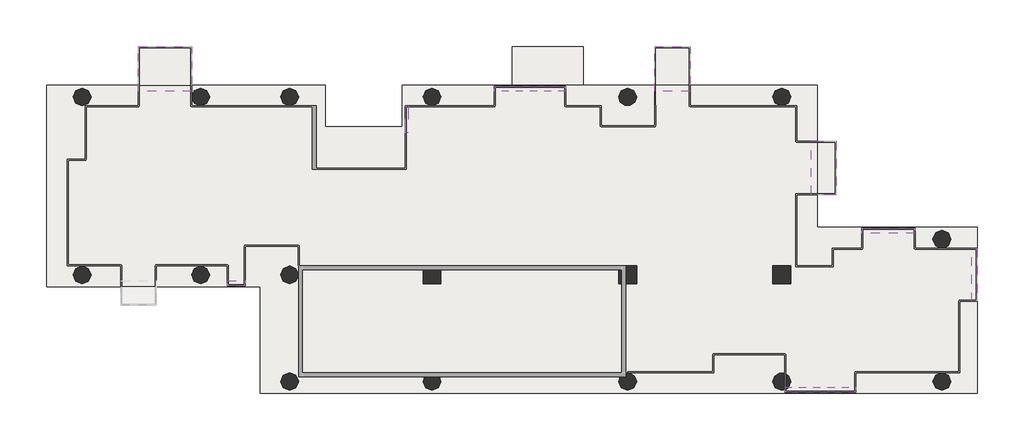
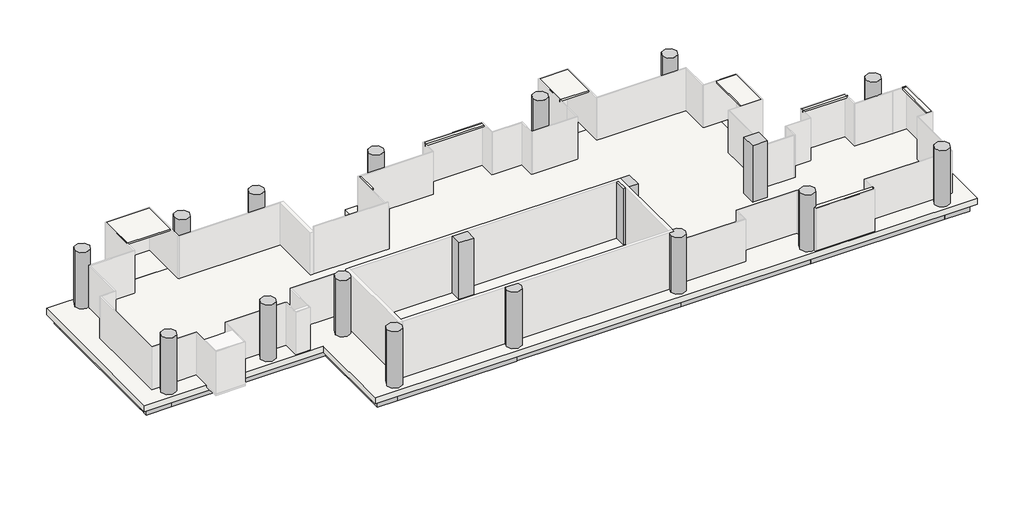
# One storey, part 2 of 2: 33 slabs, 25 beams, 18 columns.
"""IFC4 building model written with IfcOpenShell, lengths in millimetres."""

from ifc_helpers import new_model, si_unit, point, frame, frame_2d, origin, place, context, project, spatial, polyline, circle_curve, trimmed, segment, composite_curve, outline, extrude, transform, mapped, element, save
from ifc_brep_helpers import plane_surface, cylinder_surface, advanced_brep
from components import ajn_arc_ossature_rec_ba_700x600_5242ffbb, ajn_arc_ossature_rec_ba_700x600_213c05e2, ajn_arc_ossature_rec_ba_700x600_4d623bda, ajn_arc_ossature_rec_ba_700x600_c2a8f1af, ajn_arc_ossature_rec_ba_700x600_b2f97811, ajn_arc_ossature_rec_ba_700x600_e688680c, ajn_arc_ossature_rec_ba_700x600_8adee879, ajn_arc_ossature_rec_ba_700x600_6677e51c, ajn_arc_ossature_rec_ba_700x600_60e35d56, ajn_arc_ossature_rec_ba_700x600_9ae0f913, ajn_arc_ossature_rec_ba_700x600_5c14351b, ajn_arc_ossature_rec_ba_700x600_e883967f, ajn_arc_ossature_rec_ba_700x600_0984b03c, ajn_arc_ossature_rec_ba_700x600_78f846f2, ajn_arc_ossature_rec_ba_700x600_e869caa8, ajn_arc_ossature_rec_ba_700x600_0388eb48, ajn_arc_ossature_rec_ba_700x600_e143517c, ajn_arc_ossature_rec_ba_700x600_758f1bfa, ajn_arc_ossature_rec_ba_700x600_64ba80e1, ajn_arc_poteau_circulaire_535159a1

model = new_model("IFC4")

# Units and contexts
model_context = context("Model", 3, world=origin())
ifc_project = project(units=[si_unit("LENGTHUNIT", "METRE", prefix="MILLI")], contexts=[model_context])

# Site, building, storey
site = spatial("IfcSite", under=ifc_project)
building = spatial("IfcBuilding", under=site)
storey = spatial("IfcBuildingStorey", under=building, Name="TW-L 20", Elevation=71199.9999686)

# Beams
placement = place(None, origin())
ajn_arc_ossature_rec_ba_700x600_shape = ajn_arc_ossature_rec_ba_700x600_5242ffbb(model_context)
element("IfcBeam", 1, ObjectType="AJN-ARC-OSSATURE REC-BA : 700x600", at=placement, inside=storey, context=model_context, shape_type="MappedRepresentation", body=[
    mapped(ajn_arc_ossature_rec_ba_700x600_shape, transform((119350.0, 39300.0, 70649.9999686), x_axis=(-1.0, 0.0, 0.0), y_axis=(0.0, -1.0, 0.0), z_axis=(0.0, 0.0, 1.0))),
])
ajn_arc_ossature_rec_ba_700x600_2_shape = ajn_arc_ossature_rec_ba_700x600_213c05e2(model_context)
element("IfcBeam", 2, ObjectType="AJN-ARC-OSSATURE REC-BA : 700x600", at=placement, inside=storey, context=model_context, shape_type="MappedRepresentation", body=[
    mapped(ajn_arc_ossature_rec_ba_700x600_2_shape, transform((100900.0, 34800.0, 70649.9999686), x_axis=(0.0, -1.0, 0.0), y_axis=(1.0, 0.0, 0.0), z_axis=(0.0, 0.0, 1.0))),
])
ajn_arc_ossature_rec_ba_700x600_3_shape = ajn_arc_ossature_rec_ba_700x600_4d623bda(model_context)
element("IfcBeam", 3, ObjectType="AJN-ARC-OSSATURE REC-BA : 700x600", at=placement, inside=storey, context=model_context, shape_type="MappedRepresentation", body=[
    mapped(ajn_arc_ossature_rec_ba_700x600_3_shape, transform((112150.0, 24900.0, 70649.9999686), x_axis=(1.0, 0.0, 0.0), y_axis=(0.0, 1.0, 0.0), z_axis=(0.0, 0.0, 1.0))),
])
ajn_arc_ossature_rec_ba_700x600_4_shape = ajn_arc_ossature_rec_ba_700x600_c2a8f1af(model_context)
element("IfcBeam", 4, ObjectType="AJN-ARC-OSSATURE REC-BA : 700x600", at=placement, inside=storey, context=model_context, shape_type="MappedRepresentation", body=[
    mapped(ajn_arc_ossature_rec_ba_700x600_4_shape, transform((116200.0, 24900.0, 70649.9999686), x_axis=(1.0, 0.0, 0.0), y_axis=(0.0, 1.0, 0.0), z_axis=(0.0, 0.0, 1.0))),
])
ajn_arc_ossature_rec_ba_700x600_5_shape = ajn_arc_ossature_rec_ba_700x600_b2f97811(model_context)
element("IfcBeam", 5, ObjectType="AJN-ARC-OSSATURE REC-BA : 700x600", at=placement, inside=storey, context=model_context, shape_type="MappedRepresentation", body=[
    mapped(ajn_arc_ossature_rec_ba_700x600_5_shape, transform((106900.0, 30300.0, 70649.9999686), x_axis=(1.0, 0.0, 0.0), y_axis=(0.0, 1.0, 0.0), z_axis=(0.0, 0.0, 1.0))),
])
ajn_arc_ossature_rec_ba_700x600_6_shape = ajn_arc_ossature_rec_ba_700x600_e688680c(model_context)
element("IfcBeam", 6, ObjectType="AJN-ARC-OSSATURE REC-BA : 700x600", at=placement, inside=storey, context=model_context, shape_type="MappedRepresentation", body=[
    mapped(ajn_arc_ossature_rec_ba_700x600_6_shape, transform((111700.0, 27600.0, 70649.9999686), x_axis=(0.0, -1.0, 0.0), y_axis=(1.0, 0.0, 0.0), z_axis=(0.0, 0.0, 1.0))),
])
ajn_arc_ossature_rec_ba_700x600_7_shape = ajn_arc_ossature_rec_ba_700x600_8adee879(model_context)
element("IfcBeam", 7, ObjectType="AJN-ARC-OSSATURE REC-BA : 700x600", at=placement, inside=storey, context=model_context, shape_type="MappedRepresentation", body=[
    mapped(ajn_arc_ossature_rec_ba_700x600_7_shape, transform((124750.0, 24900.0, 70649.9999686), x_axis=(1.0, 0.0, 0.0), y_axis=(0.0, 1.0, 0.0), z_axis=(0.0, 0.0, 1.0))),
])
element("IfcBeam", 8, ObjectType="AJN-ARC-OSSATURE REC-BA : 700x600", at=placement, inside=storey, context=model_context, shape_type="MappedRepresentation", body=[
    mapped(ajn_arc_ossature_rec_ba_700x600_7_shape, transform((124750.0, 39300.0, 70649.9999686), x_axis=(-1.0, 0.0, 0.0), y_axis=(0.0, -1.0, 0.0), z_axis=(0.0, 0.0, 1.0))),
])
ajn_arc_ossature_rec_ba_700x600_8_shape = ajn_arc_ossature_rec_ba_700x600_6677e51c(model_context)
element("IfcBeam", 9, ObjectType="AJN-ARC-OSSATURE REC-BA : 700x600", at=placement, inside=storey, context=model_context, shape_type="MappedRepresentation", body=[
    mapped(ajn_arc_ossature_rec_ba_700x600_8_shape, transform((133600.0, 24900.0, 70649.9999686), x_axis=(1.0, 0.0, 0.0), y_axis=(0.0, 1.0, 0.0), z_axis=(0.0, 0.0, 1.0))),
])
ajn_arc_ossature_rec_ba_700x600_9_shape = ajn_arc_ossature_rec_ba_700x600_60e35d56(model_context)
element("IfcBeam", 10, ObjectType="AJN-ARC-OSSATURE REC-BA : 700x600", at=placement, inside=storey, context=model_context, shape_type="MappedRepresentation", body=[
    mapped(ajn_arc_ossature_rec_ba_700x600_9_shape, transform((141550.0, 24900.0, 70649.9999686), x_axis=(1.0, 0.0, 0.0), y_axis=(0.0, 1.0, 0.0), z_axis=(0.0, 0.0, 1.0))),
])
ajn_arc_ossature_rec_ba_700x600_10_shape = ajn_arc_ossature_rec_ba_700x600_9ae0f913(model_context)
element("IfcBeam", 11, ObjectType="AJN-ARC-OSSATURE REC-BA : 700x600", at=placement, inside=storey, context=model_context, shape_type="MappedRepresentation", body=[
    mapped(ajn_arc_ossature_rec_ba_700x600_10_shape, transform((146200.0, 24900.0, 70649.9999686), x_axis=(1.0, 0.0, 0.0), y_axis=(0.0, 1.0, 0.0), z_axis=(0.0, 0.0, 1.0))),
])
element("IfcBeam", 12, ObjectType="AJN-ARC-OSSATURE REC-BA : 700x600", at=placement, inside=storey, context=model_context, shape_type="MappedRepresentation", body=[
    mapped(ajn_arc_ossature_rec_ba_700x600_10_shape, transform((101500.0, 39300.0, 70649.9999686), x_axis=(-1.0, 0.0, 0.0), y_axis=(0.0, -1.0, 0.0), z_axis=(0.0, 0.0, 1.0))),
])
ajn_arc_ossature_rec_ba_700x600_11_shape = ajn_arc_ossature_rec_ba_700x600_5c14351b(model_context)
element("IfcBeam", 13, ObjectType="AJN-ARC-OSSATURE REC-BA : 700x600", at=placement, inside=storey, context=model_context, shape_type="MappedRepresentation", body=[
    mapped(ajn_arc_ossature_rec_ba_700x600_11_shape, transform((146800.0, 28500.0, 70649.9999686), x_axis=(0.0, 1.0, 0.0), y_axis=(-1.0, 0.0, 0.0), z_axis=(0.0, 0.0, 1.0))),
])
element("IfcBeam", 14, ObjectType="AJN-ARC-OSSATURE REC-BA : 700x600", at=placement, inside=storey, context=model_context, shape_type="MappedRepresentation", body=[
    mapped(ajn_arc_ossature_rec_ba_700x600_11_shape, transform((138700.0, 35700.0, 70649.9999686), x_axis=(0.0, 1.0, 0.0), y_axis=(-1.0, 0.0, 0.0), z_axis=(0.0, 0.0, 1.0))),
])
ajn_arc_ossature_rec_ba_700x600_12_shape = ajn_arc_ossature_rec_ba_700x600_e883967f(model_context)
element("IfcBeam", 15, ObjectType="AJN-ARC-OSSATURE REC-BA : 700x600", at=placement, inside=storey, context=model_context, shape_type="MappedRepresentation", body=[
    mapped(ajn_arc_ossature_rec_ba_700x600_12_shape, transform((146200.0, 32100.0, 70649.9999686), x_axis=(-1.0, 0.0, 0.0), y_axis=(0.0, -1.0, 0.0), z_axis=(0.0, 0.0, 1.0))),
])
element("IfcBeam", 16, ObjectType="AJN-ARC-OSSATURE REC-BA : 700x600", at=placement, inside=storey, context=model_context, shape_type="MappedRepresentation", body=[
    mapped(ajn_arc_ossature_rec_ba_700x600_12_shape, transform((138100.0, 39300.0, 70649.9999686), x_axis=(-1.0, 0.0, 0.0), y_axis=(0.0, -1.0, 0.0), z_axis=(0.0, 0.0, 1.0))),
])
element("IfcBeam", 17, ObjectType="AJN-ARC-OSSATURE REC-BA : 700x600", at=placement, inside=storey, context=model_context, shape_type="MappedRepresentation", body=[
    mapped(ajn_arc_ossature_rec_ba_700x600_12_shape, transform((113200.0, 39300.0, 70649.9999686), x_axis=(-1.0, 0.0, 0.0), y_axis=(0.0, -1.0, 0.0), z_axis=(0.0, 0.0, 1.0))),
])
element("IfcBeam", 18, ObjectType="AJN-ARC-OSSATURE REC-BA : 700x600", at=placement, inside=storey, context=model_context, shape_type="MappedRepresentation", body=[
    mapped(ajn_arc_ossature_rec_ba_700x600_12_shape, transform((101500.0, 30300.0, 70649.9999686), x_axis=(1.0, 0.0, 0.0), y_axis=(0.0, 1.0, 0.0), z_axis=(0.0, 0.0, 1.0))),
])
ajn_arc_ossature_rec_ba_700x600_13_shape = ajn_arc_ossature_rec_ba_700x600_0984b03c(model_context)
element("IfcBeam", 19, ObjectType="AJN-ARC-OSSATURE REC-BA : 700x600", at=placement, inside=storey, context=model_context, shape_type="MappedRepresentation", body=[
    mapped(ajn_arc_ossature_rec_ba_700x600_13_shape, transform((142150.0, 32100.0, 70649.9999686), x_axis=(-1.0, 0.0, 0.0), y_axis=(0.0, -1.0, 0.0), z_axis=(0.0, 0.0, 1.0))),
])
ajn_arc_ossature_rec_ba_700x600_14_shape = ajn_arc_ossature_rec_ba_700x600_78f846f2(model_context)
element("IfcBeam", 20, ObjectType="AJN-ARC-OSSATURE REC-BA : 700x600", at=placement, inside=storey, context=model_context, shape_type="MappedRepresentation", body=[
    mapped(ajn_arc_ossature_rec_ba_700x600_14_shape, transform((133600.0, 39300.0, 70649.9999686), x_axis=(-1.0, 0.0, 0.0), y_axis=(0.0, -1.0, 0.0), z_axis=(0.0, 0.0, 1.0))),
])
ajn_arc_ossature_rec_ba_700x600_15_shape = ajn_arc_ossature_rec_ba_700x600_e869caa8(model_context)
element("IfcBeam", 21, ObjectType="AJN-ARC-OSSATURE REC-BA : 700x600", at=placement, inside=storey, context=model_context, shape_type="MappedRepresentation", body=[
    mapped(ajn_arc_ossature_rec_ba_700x600_15_shape, transform((118900.0, 38250.0, 70649.9999686), x_axis=(0.0, -1.0, 0.0), y_axis=(1.0, 0.0, 0.0), z_axis=(0.0, 0.0, 1.0))),
])
ajn_arc_ossature_rec_ba_700x600_16_shape = ajn_arc_ossature_rec_ba_700x600_0388eb48(model_context)
element("IfcBeam", 22, ObjectType="AJN-ARC-OSSATURE REC-BA : 700x600", at=placement, inside=storey, context=model_context, shape_type="MappedRepresentation", body=[
    mapped(ajn_arc_ossature_rec_ba_700x600_16_shape, transform((110350.0, 39300.0, 70649.9999686), x_axis=(-1.0, 0.0, 0.0), y_axis=(0.0, -1.0, 0.0), z_axis=(0.0, 0.0, 1.0))),
])
ajn_arc_ossature_rec_ba_700x600_17_shape = ajn_arc_ossature_rec_ba_700x600_e143517c(model_context)
element("IfcBeam", 23, ObjectType="AJN-ARC-OSSATURE REC-BA : 700x600", at=placement, inside=storey, context=model_context, shape_type="MappedRepresentation", body=[
    mapped(ajn_arc_ossature_rec_ba_700x600_17_shape, transform((105100.0, 39300.0, 70649.9999686), x_axis=(-1.0, 0.0, 0.0), y_axis=(0.0, -1.0, 0.0), z_axis=(0.0, 0.0, 1.0))),
])
ajn_arc_ossature_rec_ba_700x600_18_shape = ajn_arc_ossature_rec_ba_700x600_758f1bfa(model_context)
element("IfcBeam", 24, ObjectType="AJN-ARC-OSSATURE REC-BA : 700x600", at=placement, inside=storey, context=model_context, shape_type="MappedRepresentation", body=[
    mapped(ajn_arc_ossature_rec_ba_700x600_18_shape, transform((116350.0, 37200.0, 70649.9999686), x_axis=(-1.0, 0.0, 0.0), y_axis=(0.0, -1.0, 0.0), z_axis=(0.0, 0.0, 1.0))),
])
ajn_arc_ossature_rec_ba_700x600_19_shape = ajn_arc_ossature_rec_ba_700x600_64ba80e1(model_context)
element("IfcBeam", 25, ObjectType="AJN-ARC-OSSATURE REC-BA : 700x600", at=placement, inside=storey, context=model_context, shape_type="MappedRepresentation", body=[
    mapped(ajn_arc_ossature_rec_ba_700x600_19_shape, transform((113800.0, 38250.0, 70649.9999686), x_axis=(0.0, 1.0, 0.0), y_axis=(-1.0, 0.0, 0.0), z_axis=(0.0, 0.0, 1.0))),
])

# Columns
element("IfcColumn", 26, ObjectType="AJN-ARC-POTEAU CIRCULAIRE : ø90", at=placement, inside=storey, context=model_context, shape_type="SweptSolid", body=[
    extrude(outline(composite_curve([segment(trimmed(circle_curve(frame_2d((102100.0, 39300.0)), 450.0), [point((101650.0, 39300.0))], [point((102550.0, 39300.0))], False, "CARTESIAN"), True, "CONTINUOUS"), segment(trimmed(circle_curve(frame_2d((102100.0, 39300.0)), 450.0), [point((102550.0, 39300.0))], [point((101650.0, 39300.0))], False, "CARTESIAN"), True, "CONTINUOUS")], self_intersect=False)), frame((0.0, 0.0, 71199.9999686), z_axis=(0.0, 0.0, 1.0), x_axis=(1.0, 0.0, 0.0)), (0.0, 0.0, 1.0), 3600.0),
])
element("IfcColumn", 27, ObjectType="AJN-ARC-POTEAU CIRCULAIRE : ø90", at=placement, inside=storey, context=model_context, shape_type="SweptSolid", body=[
    extrude(outline(composite_curve([segment(trimmed(circle_curve(frame_2d((102100.0, 30300.0)), 450.0), [point((101650.0, 30300.0))], [point((102550.0, 30300.0))], False, "CARTESIAN"), True, "CONTINUOUS"), segment(trimmed(circle_curve(frame_2d((102100.0, 30300.0)), 450.0), [point((102550.0, 30300.0))], [point((101650.0, 30300.0))], False, "CARTESIAN"), True, "CONTINUOUS")], self_intersect=False)), frame((0.0, 0.0, 71199.9999686), z_axis=(0.0, 0.0, 1.0), x_axis=(1.0, 0.0, 0.0)), (0.0, 0.0, 1.0), 3600.0),
])
element("IfcColumn", 28, ObjectType="AJN-ARC-POTEAU CIRCULAIRE : ø90", at=placement, inside=storey, context=model_context, shape_type="SweptSolid", body=[
    extrude(outline(composite_curve([segment(trimmed(circle_curve(frame_2d((108100.0, 30300.0)), 450.0), [point((107650.0, 30300.0))], [point((108550.0, 30300.0))], False, "CARTESIAN"), True, "CONTINUOUS"), segment(trimmed(circle_curve(frame_2d((108100.0, 30300.0)), 450.0), [point((108550.0, 30300.0))], [point((107650.0, 30300.0))], False, "CARTESIAN"), True, "CONTINUOUS")], self_intersect=False)), frame((0.0, 0.0, 71199.9999686), z_axis=(0.0, 0.0, 1.0), x_axis=(1.0, 0.0, 0.0)), (0.0, 0.0, 1.0), 3600.0),
])
element("IfcColumn", 29, ObjectType="AJN-ARC-POTEAU CIRCULAIRE : ø90", at=placement, inside=storey, context=model_context, shape_type="SweptSolid", body=[
    extrude(outline(composite_curve([segment(trimmed(circle_curve(frame_2d((108100.0, 39300.0)), 450.0), [point((107650.0, 39300.0))], [point((108550.0, 39300.0))], False, "CARTESIAN"), True, "CONTINUOUS"), segment(trimmed(circle_curve(frame_2d((108100.0, 39300.0)), 450.0), [point((108550.0, 39300.0))], [point((107650.0, 39300.0))], False, "CARTESIAN"), True, "CONTINUOUS")], self_intersect=False)), frame((0.0, 0.0, 71199.9999686), z_axis=(0.0, 0.0, 1.0), x_axis=(1.0, 0.0, 0.0)), (0.0, 0.0, 1.0), 3600.0),
])
element("IfcColumn", 30, ObjectType="AJN-ARC-POTEAU CIRCULAIRE : ø90", at=placement, inside=storey, context=model_context, shape_type="SweptSolid", body=[
    extrude(outline(composite_curve([segment(trimmed(circle_curve(frame_2d((112600.0, 39300.0)), 450.0), [point((112150.0, 39300.0))], [point((113050.0, 39300.0))], False, "CARTESIAN"), True, "CONTINUOUS"), segment(trimmed(circle_curve(frame_2d((112600.0, 39300.0)), 450.0), [point((113050.0, 39300.0))], [point((112150.0, 39300.0))], False, "CARTESIAN"), True, "CONTINUOUS")], self_intersect=False)), frame((0.0, 0.0, 71199.9999686), z_axis=(0.0, 0.0, 1.0), x_axis=(1.0, 0.0, 0.0)), (0.0, 0.0, 1.0), 3600.0),
])
element("IfcColumn", 31, ObjectType="AJN-ARC-POTEAU CIRCULAIRE : ø90", at=placement, inside=storey, context=model_context, shape_type="SweptSolid", body=[
    extrude(outline(composite_curve([segment(trimmed(circle_curve(frame_2d((112600.0, 30300.0)), 450.0), [point((112150.0, 30300.0))], [point((113050.0, 30300.0))], False, "CARTESIAN"), True, "CONTINUOUS"), segment(trimmed(circle_curve(frame_2d((112600.0, 30300.0)), 450.0), [point((113050.0, 30300.0))], [point((112150.0, 30300.0))], False, "CARTESIAN"), True, "CONTINUOUS")], self_intersect=False)), frame((0.0, 0.0, 71199.9999686), z_axis=(0.0, 0.0, 1.0), x_axis=(1.0, 0.0, 0.0)), (0.0, 0.0, 1.0), 3600.0),
])
element("IfcColumn", 32, ObjectType="AJN-ARC-POTEAU CIRCULAIRE : ø90", at=placement, inside=storey, context=model_context, shape_type="SweptSolid", body=[
    extrude(outline(composite_curve([segment(trimmed(circle_curve(frame_2d((112600.0, 24900.0)), 450.0), [point((112150.0, 24900.0))], [point((113050.0, 24900.0))], False, "CARTESIAN"), True, "CONTINUOUS"), segment(trimmed(circle_curve(frame_2d((112600.0, 24900.0)), 450.0), [point((113050.0, 24900.0))], [point((112150.0, 24900.0))], False, "CARTESIAN"), True, "CONTINUOUS")], self_intersect=False)), frame((0.0, 0.0, 71199.9999686), z_axis=(0.0, 0.0, 1.0), x_axis=(1.0, 0.0, 0.0)), (0.0, 0.0, 1.0), 3600.0),
])
element("IfcColumn", 33, ObjectType="AJN-ARC-POTEAU CIRCULAIRE : ø90", at=placement, inside=storey, context=model_context, shape_type="SweptSolid", body=[
    extrude(outline(composite_curve([segment(trimmed(circle_curve(frame_2d((119800.0, 24900.0)), 450.0), [point((120250.0, 24900.0))], [point((119350.0, 24900.0))], False, "CARTESIAN"), True, "CONTINUOUS"), segment(trimmed(circle_curve(frame_2d((119800.0, 24900.0)), 450.0), [point((119350.0, 24900.0))], [point((119425.8342613, 25150.0))], False, "CARTESIAN"), True, "CONTINUOUS"), segment(polyline([(119425.8342613, 25150.0), (120174.1657387, 25150.0)]), True, "CONTINUOUS"), segment(trimmed(circle_curve(frame_2d((119800.0, 24900.0)), 450.0), [point((120174.1657387, 25150.0))], [point((120250.0, 24900.0))], False, "CARTESIAN"), True, "CONTINUOUS")], self_intersect=False)), frame((0.0, 0.0, 71199.9999686), z_axis=(0.0, 0.0, 1.0), x_axis=(1.0, 0.0, 0.0)), (0.0, 0.0, 1.0), 3600.0),
])
element("IfcColumn", 34, ObjectType="AJN-ARC-POTEAU CIRCULAIRE : ø90", at=placement, inside=storey, context=model_context, shape_type="SweptSolid", body=[
    extrude(outline(composite_curve([segment(trimmed(circle_curve(frame_2d((119800.0, 39300.0)), 450.0), [point((119350.0, 39300.0))], [point((120250.0, 39300.0))], False, "CARTESIAN"), True, "CONTINUOUS"), segment(trimmed(circle_curve(frame_2d((119800.0, 39300.0)), 450.0), [point((120250.0, 39300.0))], [point((119350.0, 39300.0))], False, "CARTESIAN"), True, "CONTINUOUS")], self_intersect=False)), frame((0.0, 0.0, 71199.9999686), z_axis=(0.0, 0.0, 1.0), x_axis=(1.0, 0.0, 0.0)), (0.0, 0.0, 1.0), 3600.0),
])
element("IfcColumn", 35, ObjectType="AJN-ARC-POTEAU CIRCULAIRE : ø90", at=placement, inside=storey, context=model_context, shape_type="SweptSolid", body=[
    extrude(outline(composite_curve([segment(trimmed(circle_curve(frame_2d((129700.0, 24900.0)), 450.0), [point((130150.0, 24900.0))], [point((129250.0, 24900.0))], False, "CARTESIAN"), True, "CONTINUOUS"), segment(trimmed(circle_curve(frame_2d((129700.0, 24900.0)), 450.0), [point((129250.0, 24900.0))], [point((129325.8342613, 25150.0))], False, "CARTESIAN"), True, "CONTINUOUS"), segment(polyline([(129325.8342613, 25150.0), (129600.0, 25150.0), (129600.0, 25338.7482194)]), True, "CONTINUOUS"), segment(trimmed(circle_curve(frame_2d((129700.0, 24900.0)), 450.0), [point((129600.0, 25338.7482194))], [point((130150.0, 24900.0))], False, "CARTESIAN"), True, "CONTINUOUS")], self_intersect=False)), frame((0.0, 0.0, 71199.9999686), z_axis=(0.0, 0.0, 1.0), x_axis=(1.0, 0.0, 0.0)), (0.0, 0.0, 1.0), 3600.0),
])
element("IfcColumn", 36, ObjectType="AJN-ARC-POTEAU CIRCULAIRE : ø90", at=placement, inside=storey, context=model_context, shape_type="SweptSolid", body=[
    extrude(outline(composite_curve([segment(trimmed(circle_curve(frame_2d((137500.0, 39300.0)), 450.0), [point((137050.0, 39300.0))], [point((137950.0, 39300.0))], False, "CARTESIAN"), True, "CONTINUOUS"), segment(trimmed(circle_curve(frame_2d((137500.0, 39300.0)), 450.0), [point((137950.0, 39300.0))], [point((137050.0, 39300.0))], False, "CARTESIAN"), True, "CONTINUOUS")], self_intersect=False)), frame((0.0, 0.0, 71199.9999686), z_axis=(0.0, 0.0, 1.0), x_axis=(1.0, 0.0, 0.0)), (0.0, 0.0, 1.0), 3600.0),
])
element("IfcColumn", 37, ObjectType="AJN-ARC-POTEAU CIRCULAIRE : ø90", at=placement, inside=storey, context=model_context, shape_type="AdvancedBrep", body=[
    advanced_brep(
    [(137700.3335787, 25302.947214, 71199.9999686), (137950.0, 24900.0, 71199.9999686), (137700.3335787, 24497.052786, 71199.9999686), (137050.0, 24900.0, 74799.9999686), (137950.0, 24900.0, 74799.9999686), (137700.3335787, 25302.947214, 73899.9999686), (137650.3335787, 25324.1459833, 73899.9999686), (137650.3335787, 25324.1459833, 71199.9999686), (137050.0, 24900.0, 71199.9999686), (137650.3335787, 24475.8540167, 71199.9999686), (137650.3335787, 24475.8540167, 73899.9999686), (137700.3335787, 24497.052786, 73899.9999686)],
    [
        (0, 1, circle_curve(frame((137500.0, 24900.0, 71199.9999686), z_axis=(0.0, 0.0, -1.0), x_axis=(1.0, 0.0, 0.0)), 450.0)),
        (1, 2, circle_curve(frame((137500.0, 24900.0, 71199.9999686), z_axis=(0.0, 0.0, -1.0), x_axis=(1.0, 0.0, 0.0)), 450.0)),
        (2, 0),
        (3, 4, circle_curve(frame((137500.0, 24900.0, 74799.9999686), z_axis=(0.0, 0.0, -1.0), x_axis=(1.0, 0.0, 0.0)), 450.0)),
        (4, 1),
        (0, 5),
        (5, 6, circle_curve(frame((137500.0, 24900.0, 73899.9999686), z_axis=(0.0, 0.0, 1.0), x_axis=(1.0, 0.0, 0.0)), 450.0)),
        (6, 7),
        (7, 8, circle_curve(frame((137500.0, 24900.0, 71199.9999686), z_axis=(0.0, 0.0, 1.0), x_axis=(1.0, 0.0, 0.0)), 450.0)),
        (8, 3),
        (4, 3, circle_curve(frame((137500.0, 24900.0, 74799.9999686), z_axis=(0.0, 0.0, -1.0), x_axis=(1.0, 0.0, 0.0)), 450.0)),
        (8, 9, circle_curve(frame((137500.0, 24900.0, 71199.9999686), z_axis=(0.0, 0.0, 1.0), x_axis=(1.0, 0.0, 0.0)), 450.0)),
        (9, 10),
        (10, 11, circle_curve(frame((137500.0, 24900.0, 73899.9999686), z_axis=(0.0, 0.0, 1.0), x_axis=(1.0, 0.0, 0.0)), 450.0)),
        (11, 2),
        (6, 10),
        (9, 7),
        (11, 5),
    ],
    [
        plane_surface(frame((137950.0, 24900.0, 71199.9999686), z_axis=(0.0, 0.0, -1.0), x_axis=(0.0, -1.0, 0.0))),
        cylinder_surface(frame((137500.0, 24900.0, 71199.9999686), z_axis=(0.0, 0.0, 1.0), x_axis=(1.0, 0.0, 0.0)), 450.0),
        plane_surface(frame((137950.0, 24900.0, 74799.9999686), z_axis=(0.0, 0.0, 1.0), x_axis=(0.0, 1.0, 0.0))),
        plane_surface(frame((137650.3335787, 25349.9999708, 71199.9999686), z_axis=(1.0, 0.0, 0.0), x_axis=(0.0, -1.0, 0.0))),
        plane_surface(frame((137700.3335787, 25349.9999708, 71199.9999686), z_axis=(-1.0, 0.0, 0.0), x_axis=(0.0, 1.0, 0.0))),
        plane_surface(frame((137650.3335787, 24375.0, 73899.9999686), z_axis=(0.0, 0.0, -1.0), x_axis=(1.0, 0.0, 0.0))),
    ],
    [
        (0, [[1, 2, 3]]),
        (1, [[4, 5, -1, 6, 7, 8, 9, 10]]),
        (1, [[-5, 11, -10, 12, 13, 14, 15, -2]]),
        (2, [[-4, -11]]),
        (3, [[16, -13, 17, -8]]),
        (4, [[18, -6, -3, -15]]),
        (5, [[-16, -7, -18, -14]]),
        (0, [[-9, -17, -12]]),
    ],
),
])
element("IfcColumn", 38, ObjectType="AJN-ARC-POTEAU CIRCULAIRE : ø90", at=placement, inside=storey, context=model_context, shape_type="SweptSolid", body=[
    extrude(outline(composite_curve([segment(trimmed(circle_curve(frame_2d((145600.0, 24900.0)), 450.0), [point((145150.0, 24900.0))], [point((146050.0, 24900.0))], False, "CARTESIAN"), True, "CONTINUOUS"), segment(trimmed(circle_curve(frame_2d((145600.0, 24900.0)), 450.0), [point((146050.0, 24900.0))], [point((145150.0, 24900.0))], False, "CARTESIAN"), True, "CONTINUOUS")], self_intersect=False)), frame((0.0, 0.0, 71199.9999686), z_axis=(0.0, 0.0, 1.0), x_axis=(1.0, 0.0, 0.0)), (0.0, 0.0, 1.0), 3600.0),
])
element("IfcColumn", 39, ObjectType="AJN-ARC-POTEAU CIRCULAIRE : ø90", at=placement, inside=storey, context=model_context, shape_type="AdvancedBrep", body=[
    advanced_brep(
    [(145150.0, 32100.0, 71199.9999686), (146050.0, 32100.0, 71199.9999686), (145638.6089983, 31651.6593424, 71199.9999686), (145561.3910017, 31651.6593424, 71199.9999686), (145150.0, 32100.0, 74799.9999686), (146050.0, 32100.0, 74799.9999686), (145561.3910017, 31651.6593424, 73899.9999686), (145638.6089983, 31651.6593424, 73899.9999686)],
    [
        (0, 1, circle_curve(frame((145600.0, 32100.0, 71199.9999686), z_axis=(0.0, 0.0, -1.0), x_axis=(1.0, 0.0, 0.0)), 450.0)),
        (1, 2, circle_curve(frame((145600.0, 32100.0, 71199.9999686), z_axis=(0.0, 0.0, -1.0), x_axis=(1.0, 0.0, 0.0)), 450.0)),
        (2, 3),
        (3, 0, circle_curve(frame((145600.0, 32100.0, 71199.9999686), z_axis=(0.0, 0.0, -1.0), x_axis=(1.0, 0.0, 0.0)), 450.0)),
        (0, 4),
        (4, 5, circle_curve(frame((145600.0, 32100.0, 74799.9999686), z_axis=(0.0, 0.0, -1.0), x_axis=(1.0, 0.0, 0.0)), 450.0)),
        (5, 1),
        (5, 4, circle_curve(frame((145600.0, 32100.0, 74799.9999686), z_axis=(0.0, 0.0, -1.0), x_axis=(1.0, 0.0, 0.0)), 450.0)),
        (3, 6),
        (6, 7, circle_curve(frame((145600.0, 32100.0, 73899.9999686), z_axis=(0.0, 0.0, 1.0), x_axis=(1.0, 0.0, 0.0)), 450.0)),
        (7, 2),
        (7, 6),
    ],
    [
        plane_surface(frame((146050.0, 32100.0, 71199.9999686), z_axis=(0.0, 0.0, -1.0), x_axis=(0.0, -1.0, 0.0))),
        cylinder_surface(frame((145600.0, 32100.0, 71199.9999686), z_axis=(0.0, 0.0, 1.0), x_axis=(1.0, 0.0, 0.0)), 450.0),
        plane_surface(frame((146050.0, 32100.0, 74799.9999686), z_axis=(0.0, 0.0, 1.0), x_axis=(0.0, 1.0, 0.0))),
        plane_surface(frame((146497.681474, 31651.6593424, 71199.9999686), z_axis=(0.0, -1.0, 0.0), x_axis=(-1.0, 0.0, 0.0))),
        plane_surface(frame((144257.0344085, 31651.6593424, 73899.9999686), z_axis=(0.0, 0.0, -1.0), x_axis=(0.0, -1.0, 0.0))),
    ],
    [
        (0, [[1, 2, 3, 4]]),
        (1, [[-1, 5, 6, 7]]),
        (1, [[-7, 8, -5, -4, 9, 10, 11, -2]]),
        (2, [[-6, -8]]),
        (3, [[12, -9, -3, -11]]),
        (4, [[-12, -10]]),
    ],
),
])
ajn_arc_poteau_circulaire_shape = ajn_arc_poteau_circulaire_535159a1(model_context)
element("IfcColumn", 40, ObjectType="AJN-ARC-POTEAU CIRCULAIRE : ø90", at=placement, inside=storey, context=model_context, shape_type="MappedRepresentation", body=[
    mapped(ajn_arc_poteau_circulaire_shape, transform((129700.0, 39300.0, 0.0), x_axis=(1.0, 0.0, 0.0), y_axis=(0.0, 1.0, 0.0), z_axis=(0.0, 0.0, 1.0))),
])
element("IfcColumn", 41, ObjectType="AJN-ARC-POTEAU RECTANGULAIRE : 900 mm x 900 mm", at=placement, inside=storey, context=model_context, shape_type="SweptSolid", body=[
    extrude(outline(polyline([(137950.0, 30750.0), (137950.0, 29850.0), (137050.0, 29850.0), (137050.0, 30750.0), (137950.0, 30750.0)])), frame((0.0, 0.0, 71199.9999686), z_axis=(0.0, 0.0, 1.0), x_axis=(1.0, 0.0, 0.0)), (0.0, 0.0, 1.0), 3600.0),
])
element("IfcColumn", 42, ObjectType="AJN-ARC-POTEAU RECTANGULAIRE : 900 mm x 900 mm", at=placement, inside=storey, context=model_context, shape_type="SweptSolid", body=[
    extrude(outline(polyline([(129400.0, 29850.0), (129250.0, 29850.0), (129250.0, 30550.0), (129400.0, 30550.0), (129400.0, 29850.0)])), frame((0.0, 0.0, 71199.9999686), z_axis=(0.0, 0.0, 1.0), x_axis=(1.0, 0.0, 0.0)), (0.0, 0.0, 1.0), 3600.0),
    extrude(outline(polyline([(130150.0, 30750.0), (130150.0, 29850.0), (129600.0, 29850.0), (129600.0, 30750.0), (130150.0, 30750.0)])), frame((0.0, 0.0, 71199.9999686), z_axis=(0.0, 0.0, 1.0), x_axis=(1.0, 0.0, 0.0)), (0.0, 0.0, 1.0), 3600.0),
])
element("IfcColumn", 43, ObjectType="AJN-ARC-POTEAU RECTANGULAIRE : 900 mm x 900 mm", at=placement, inside=storey, context=model_context, shape_type="SweptSolid", body=[
    extrude(outline(polyline([(120250.0, 29850.0), (119350.0, 29850.0), (119350.0, 30550.0), (120250.0, 30550.0), (120250.0, 29850.0)])), frame((0.0, 0.0, 71199.9999686), z_axis=(0.0, 0.0, 1.0), x_axis=(1.0, 0.0, 0.0)), (0.0, 0.0, 1.0), 3600.0),
])

# Slabs
element("IfcSlab", 44, ObjectType="AJN-ARC-SLAB-10cm", at=placement, inside=storey, context=model_context, shape_type="SweptSolid", body=[
    extrude(outline(polyline([(127463.0639015, 39900.0), (123863.0639015, 39900.0), (123863.0639015, 41850.0), (127463.0639015, 41850.0), (127463.0639015, 39900.0)])), frame((0.0, 0.0, 63900.0), z_axis=(0.0, 0.0, 1.0), x_axis=(1.0, 0.0, 0.0)), (0.0, 0.0, 1.0), 100.0),
])
element("IfcSlab", 45, ObjectType="AJN-ARC-SLAB-10cm", at=placement, inside=storey, context=model_context, shape_type="SweptSolid", body=[
    extrude(outline(polyline([(107650.0, 39900.0), (104950.0, 39900.0), (104950.0, 41850.0), (107650.0, 41850.0), (107650.0, 39900.0)])), frame((0.0, 0.0, 71099.9999686), z_axis=(0.0, 0.0, 1.0), x_axis=(1.0, 0.0, 0.0)), (0.0, 0.0, 1.0), 100.0),
])
element("IfcSlab", 46, ObjectType="AJN-ARC-SLAB-10cm", at=placement, inside=storey, context=model_context, shape_type="SweptSolid", body=[
    extrude(outline(polyline([(140250.0, 34350.0), (139300.0, 34350.0), (139300.0, 37050.0), (140250.0, 37050.0), (140250.0, 34350.0)])), frame((0.0, 0.0, 71099.9999686), z_axis=(0.0, 0.0, 1.0), x_axis=(1.0, 0.0, 0.0)), (0.0, 0.0, 1.0), 100.0),
])
element("IfcSlab", 47, ObjectType="AJN-ARC-SLAB-10cm", at=placement, inside=storey, context=model_context, shape_type="SweptSolid", body=[
    extrude(outline(polyline([(132860.049155, 39900.0), (131060.049155, 39900.0), (131060.049155, 41850.0), (132860.049155, 41850.0), (132860.049155, 39900.0)])), frame((0.0, 0.0, 71099.9999686), z_axis=(0.0, 0.0, 1.0), x_axis=(1.0, 0.0, 0.0)), (0.0, 0.0, 1.0), 100.0),
])
element("IfcSlab", 48, ObjectType="AJN-ARC-SLAB-10cm", at=placement, inside=storey, context=model_context, shape_type="SweptSolid", body=[
    extrude(outline(polyline([(132860.049155, 39900.0), (131060.049155, 39900.0), (131060.049155, 41850.0), (132860.049155, 41850.0), (132860.049155, 39900.0)])), frame((0.0, 0.0, 71099.9999686), z_axis=(0.0, 0.0, 1.0), x_axis=(1.0, 0.0, 0.0)), (0.0, 0.0, 1.0), 100.0),
])
element("IfcSlab", 49, ObjectType="AJN-ARC-SLAB-10cm", at=placement, inside=storey, context=model_context, shape_type="SweptSolid", body=[
    extrude(outline(polyline([(132860.049155, 39900.0), (131060.049155, 39900.0), (131060.049155, 41850.0), (132860.049155, 41850.0), (132860.049155, 39900.0)])), frame((0.0, 0.0, 71099.9999686), z_axis=(0.0, 0.0, 1.0), x_axis=(1.0, 0.0, 0.0)), (0.0, 0.0, 1.0), 100.0),
])
element("IfcSlab", 50, ObjectType="AJN-ARC-SLAB-10cm", at=placement, inside=storey, context=model_context, shape_type="SweptSolid", body=[
    extrude(outline(polyline([(132860.049155, 39900.0), (131060.049155, 39900.0), (131060.049155, 41850.0), (132860.049155, 41850.0), (132860.049155, 39900.0)])), frame((0.0, 0.0, 71099.9999686), z_axis=(0.0, 0.0, 1.0), x_axis=(1.0, 0.0, 0.0)), (0.0, 0.0, 1.0), 100.0),
])
element("IfcSlab", 51, ObjectType="AJN-ARC-SLAB-10cm", at=placement, inside=storey, context=model_context, shape_type="SweptSolid", body=[
    extrude(outline(polyline([(132860.049155, 39900.0), (131060.049155, 39900.0), (131060.049155, 41850.0), (132860.049155, 41850.0), (132860.049155, 39900.0)])), frame((0.0, 0.0, 71099.9999686), z_axis=(0.0, 0.0, 1.0), x_axis=(1.0, 0.0, 0.0)), (0.0, 0.0, 1.0), 100.0),
])
element("IfcSlab", 52, ObjectType="AJN-ARC-SLAB-10cm", at=placement, inside=storey, context=model_context, shape_type="SweptSolid", body=[
    extrude(outline(polyline([(132860.049155, 39900.0), (131060.049155, 39900.0), (131060.049155, 41850.0), (132860.049155, 41850.0), (132860.049155, 39900.0)])), frame((0.0, 0.0, 71099.9999686), z_axis=(0.0, 0.0, 1.0), x_axis=(1.0, 0.0, 0.0)), (0.0, 0.0, 1.0), 100.0),
])
element("IfcSlab", 53, ObjectType="AJN-ARC-SLAB-10cm", at=placement, inside=storey, context=model_context, shape_type="SweptSolid", body=[
    extrude(outline(polyline([(132860.049155, 39900.0), (131060.049155, 39900.0), (131060.049155, 41850.0), (132860.049155, 41850.0), (132860.049155, 39900.0)])), frame((0.0, 0.0, 71099.9999686), z_axis=(0.0, 0.0, 1.0), x_axis=(1.0, 0.0, 0.0)), (0.0, 0.0, 1.0), 100.0),
])
element("IfcSlab", 54, ObjectType="AJN-ARC-SLAB-10cm", at=placement, inside=storey, context=model_context, shape_type="SweptSolid", body=[
    extrude(outline(polyline([(132860.049155, 39900.0), (131060.049155, 39900.0), (131060.049155, 41850.0), (132860.049155, 41850.0), (132860.049155, 39900.0)])), frame((0.0, 0.0, 71099.9999686), z_axis=(0.0, 0.0, 1.0), x_axis=(1.0, 0.0, 0.0)), (0.0, 0.0, 1.0), 100.0),
])
element("IfcSlab", 55, ObjectType="AJN-ARC-SLAB-10cm", at=placement, inside=storey, context=model_context, shape_type="SweptSolid", body=[
    extrude(outline(polyline([(132860.049155, 39900.0), (131060.049155, 39900.0), (131060.049155, 41850.0), (132860.049155, 41850.0), (132860.049155, 39900.0)])), frame((0.0, 0.0, 71099.9999686), z_axis=(0.0, 0.0, 1.0), x_axis=(1.0, 0.0, 0.0)), (0.0, 0.0, 1.0), 100.0),
])
element("IfcSlab", 56, ObjectType="AJN-ARC-SLAB-10cm", at=placement, inside=storey, context=model_context, shape_type="SweptSolid", body=[
    extrude(outline(polyline([(132860.049155, 39900.0), (131060.049155, 39900.0), (131060.049155, 41850.0), (132860.049155, 41850.0), (132860.049155, 39900.0)])), frame((0.0, 0.0, 71099.9999686), z_axis=(0.0, 0.0, 1.0), x_axis=(1.0, 0.0, 0.0)), (0.0, 0.0, 1.0), 100.0),
])
element("IfcSlab", 57, ObjectType="AJN-ARC-SLAB-10cm", at=placement, inside=storey, context=model_context, shape_type="SweptSolid", body=[
    extrude(outline(polyline([(132860.049155, 39900.0), (131060.049155, 39900.0), (131060.049155, 41850.0), (132860.049155, 41850.0), (132860.049155, 39900.0)])), frame((0.0, 0.0, 71099.9999686), z_axis=(0.0, 0.0, 1.0), x_axis=(1.0, 0.0, 0.0)), (0.0, 0.0, 1.0), 100.0),
])
element("IfcSlab", 58, ObjectType="AJN-ARC-SLAB-10cm", at=placement, inside=storey, context=model_context, shape_type="SweptSolid", body=[
    extrude(outline(polyline([(132860.049155, 39900.0), (131060.049155, 39900.0), (131060.049155, 41850.0), (132860.049155, 41850.0), (132860.049155, 39900.0)])), frame((0.0, 0.0, 71099.9999686), z_axis=(0.0, 0.0, 1.0), x_axis=(1.0, 0.0, 0.0)), (0.0, 0.0, 1.0), 100.0),
])
element("IfcSlab", 59, ObjectType="AJN-ARC-SLAB-10cm", at=placement, inside=storey, context=model_context, shape_type="SweptSolid", body=[
    extrude(outline(polyline([(132860.049155, 39900.0), (131060.049155, 39900.0), (131060.049155, 41850.0), (132860.049155, 41850.0), (132860.049155, 39900.0)])), frame((0.0, 0.0, 71099.9999686), z_axis=(0.0, 0.0, 1.0), x_axis=(1.0, 0.0, 0.0)), (0.0, 0.0, 1.0), 100.0),
])
element("IfcSlab", 60, ObjectType="AJN-ARC-SLAB-10cm", at=placement, inside=storey, context=model_context, shape_type="SweptSolid", body=[
    extrude(outline(polyline([(132860.049155, 39900.0), (131060.049155, 39900.0), (131060.049155, 41850.0), (132860.049155, 41850.0), (132860.049155, 39900.0)])), frame((0.0, 0.0, 71099.9999686), z_axis=(0.0, 0.0, 1.0), x_axis=(1.0, 0.0, 0.0)), (0.0, 0.0, 1.0), 100.0),
])
element("IfcSlab", 61, ObjectType="AJN-ARC-SLAB-10cm", at=placement, inside=storey, context=model_context, shape_type="SweptSolid", body=[
    extrude(outline(polyline([(132860.049155, 39900.0), (131060.049155, 39900.0), (131060.049155, 41850.0), (132860.049155, 41850.0), (132860.049155, 39900.0)])), frame((0.0, 0.0, 71099.9999686), z_axis=(0.0, 0.0, 1.0), x_axis=(1.0, 0.0, 0.0)), (0.0, 0.0, 1.0), 100.0),
])
element("IfcSlab", 62, ObjectType="AJN-ARC-SLAB-10cm", at=placement, inside=storey, context=model_context, shape_type="SweptSolid", body=[
    extrude(outline(polyline([(132860.049155, 39900.0), (131060.049155, 39900.0), (131060.049155, 41850.0), (132860.049155, 41850.0), (132860.049155, 39900.0)])), frame((0.0, 0.0, 71099.9999686), z_axis=(0.0, 0.0, 1.0), x_axis=(1.0, 0.0, 0.0)), (0.0, 0.0, 1.0), 100.0),
])
element("IfcSlab", 63, ObjectType="AJN-ARC-SLAB-10cm", at=placement, inside=storey, context=model_context, shape_type="SweptSolid", body=[
    extrude(outline(polyline([(107650.0, 39600.0), (104950.0, 39600.0), (104950.0, 41850.0), (107650.0, 41850.0), (107650.0, 39600.0)])), frame((0.0, 0.0, 73799.9999686), z_axis=(0.0, 0.0, 1.0), x_axis=(1.0, 0.0, 0.0)), (0.0, 0.0, 1.0), 100.0),
])
element("IfcSlab", 64, ObjectType="AJN-ARC-SLAB-10cm", at=placement, inside=storey, context=model_context, shape_type="SweptSolid", body=[
    extrude(outline(polyline([(144257.0344085, 32400.0), (141557.0344085, 32400.0), (141557.0344085, 32651.6593424), (144257.0344085, 32651.6593424), (144257.0344085, 32400.0)])), frame((0.0, 0.0, 73799.9999686), z_axis=(0.0, 0.0, 1.0), x_axis=(1.0, 0.0, 0.0)), (0.0, 0.0, 1.0), 100.0),
])
element("IfcSlab", 65, ObjectType="AJN-ARC-SLAB-10cm", at=placement, inside=storey, context=model_context, shape_type="SweptSolid", body=[
    extrude(outline(polyline([(118600.0, 37500.0), (118450.0, 37500.0), (118450.0, 38850.0), (118600.0, 38850.0), (118600.0, 37500.0)])), frame((0.0, 0.0, 73799.9999686), z_axis=(0.0, 0.0, 1.0), x_axis=(1.0, 0.0, 0.0)), (0.0, 0.0, 1.0), 100.0),
])
element("IfcSlab", 66, ObjectType="AJN-ARC-SLAB-10cm", at=placement, inside=storey, context=model_context, shape_type="SweptSolid", body=[
    extrude(outline(polyline([(126559.0442395, 39600.0), (122959.0442395, 39600.0), (122959.0442395, 39850.0), (126559.0442395, 39850.0), (126559.0442395, 39600.0)])), frame((0.0, 0.0, 73799.9999686), z_axis=(0.0, 0.0, 1.0), x_axis=(1.0, 0.0, 0.0)), (0.0, 0.0, 1.0), 100.0),
])
element("IfcSlab", 67, ObjectType="AJN-ARC-SLAB-10cm", at=placement, inside=storey, context=model_context, shape_type="SweptSolid", body=[
    extrude(outline(polyline([(140250.0, 34350.0), (139000.0, 34350.0), (139000.0, 37050.0), (140250.0, 37050.0), (140250.0, 34350.0)])), frame((0.0, 0.0, 73799.9999686), z_axis=(0.0, 0.0, 1.0), x_axis=(1.0, 0.0, 0.0)), (0.0, 0.0, 1.0), 100.0),
])
element("IfcSlab", 68, ObjectType="AJN-ARC-SLAB-10cm", at=placement, inside=storey, context=model_context, shape_type="SweptSolid", body=[
    extrude(outline(polyline([(132860.049155, 39600.0), (131060.049155, 39600.0), (131060.049155, 41850.0), (132860.049155, 41850.0), (132860.049155, 39600.0)])), frame((0.0, 0.0, 73799.9999686), z_axis=(0.0, 0.0, 1.0), x_axis=(1.0, 0.0, 0.0)), (0.0, 0.0, 1.0), 100.0),
])
element("IfcSlab", 69, ObjectType="AJN-ARC-SLAB-10cm", at=placement, inside=storey, context=model_context, shape_type="SweptSolid", body=[
    extrude(outline(polyline([(141250.3335787, 24350.0), (137650.3335787, 24350.0), (137650.3335787, 24600.0), (141250.3335787, 24600.0), (141250.3335787, 24350.0)])), frame((0.0, 0.0, 73799.9999686), z_axis=(0.0, 0.0, 1.0), x_axis=(1.0, 0.0, 0.0)), (0.0, 0.0, 1.0), 100.0),
])
element("IfcSlab", 70, ObjectType="AJN-ARC-SLAB-10cm", at=placement, inside=storey, context=model_context, shape_type="SweptSolid", body=[
    extrude(outline(polyline([(147397.681474, 28951.6593424), (147100.0, 28951.6593424), (147100.0, 31651.6593424), (147397.681474, 31651.6593424), (147397.681474, 28951.6593424)])), frame((0.0, 0.0, 73799.9999686), z_axis=(0.0, 0.0, 1.0), x_axis=(1.0, 0.0, 0.0)), (0.0, 0.0, 1.0), 100.0),
])
element("IfcSlab", 71, ObjectType="AJN-ARC-SLAB-10cm", at=placement, inside=storey, context=model_context, shape_type="SweptSolid", body=[
    extrude(outline(polyline([(110347.1743518, 29750.0), (109447.1743518, 29750.0), (109447.1743518, 30000.0), (110347.1743518, 30000.0), (110347.1743518, 29750.0)])), frame((0.0, 0.0, 73799.9999686), z_axis=(0.0, 0.0, 1.0), x_axis=(1.0, 0.0, 0.0)), (0.0, 0.0, 1.0), 100.0),
])
element("IfcSlab", 72, ObjectType="AJN-ARC-SLAB-10cm", at=placement, inside=storey, context=model_context, shape_type="SweptSolid", body=[
    extrude(outline(polyline([(110347.1743518, 29750.0), (109447.1743518, 29750.0), (109447.1743518, 30000.0), (110347.1743518, 30000.0), (110347.1743518, 29750.0)])), frame((0.0, 0.0, 73799.9999686), z_axis=(0.0, 0.0, 1.0), x_axis=(1.0, 0.0, 0.0)), (0.0, 0.0, 1.0), 100.0),
])
element("IfcSlab", 73, ObjectType="AJN-ARC-SLAB-10cm", at=placement, inside=storey, context=model_context, shape_type="SweptSolid", body=[
    extrude(outline(polyline([(110347.1743518, 29750.0), (109447.1743518, 29750.0), (109447.1743518, 30000.0), (110347.1743518, 30000.0), (110347.1743518, 29750.0)])), frame((0.0, 0.0, 73799.9999686), z_axis=(0.0, 0.0, 1.0), x_axis=(1.0, 0.0, 0.0)), (0.0, 0.0, 1.0), 100.0),
])
element("IfcSlab", 74, ObjectType="AJN-ARC-SLAB-10cm", at=placement, inside=storey, context=model_context, shape_type="SweptSolid", body=[
    extrude(outline(polyline([(110347.1743518, 29750.0), (109447.1743518, 29750.0), (109447.1743518, 30000.0), (110347.1743518, 30000.0), (110347.1743518, 29750.0)])), frame((0.0, 0.0, 73799.9999686), z_axis=(0.0, 0.0, 1.0), x_axis=(1.0, 0.0, 0.0)), (0.0, 0.0, 1.0), 100.0),
])
element("IfcSlab", 75, ObjectType="AJN-ARC-SLAB-10cm", at=placement, inside=storey, context=model_context, shape_type="SweptSolid", body=[
    extrude(outline(polyline([(110347.1743518, 29750.0), (109447.1743518, 29750.0), (109447.1743518, 30000.0), (110347.1743518, 30000.0), (110347.1743518, 29750.0)])), frame((0.0, 0.0, 73799.9999686), z_axis=(0.0, 0.0, 1.0), x_axis=(1.0, 0.0, 0.0)), (0.0, 0.0, 1.0), 100.0),
])
element("IfcSlab", 76, ObjectType="AJN-ARC-SLAB-40cm", at=placement, inside=storey, context=model_context, shape_type="SweptSolid", body=[
    extrude(outline(polyline([(147400.0, 24300.0), (111100.0, 24300.0), (111100.0, 29700.0), (100300.0, 29700.0), (100300.0, 39900.0), (114400.0, 39900.0), (114400.0, 37800.0), (118300.0, 37800.0), (118300.0, 39900.0), (139300.0, 39900.0), (139300.0, 32700.0), (147400.0, 32700.0), (147400.0, 24300.0)])), frame((0.0, 0.0, 70799.9999686), z_axis=(0.0, 0.0, 1.0), x_axis=(1.0, 0.0, 0.0)), (0.0, 0.0, 1.0), 400.0),
])

save(model, "model.ifc")
